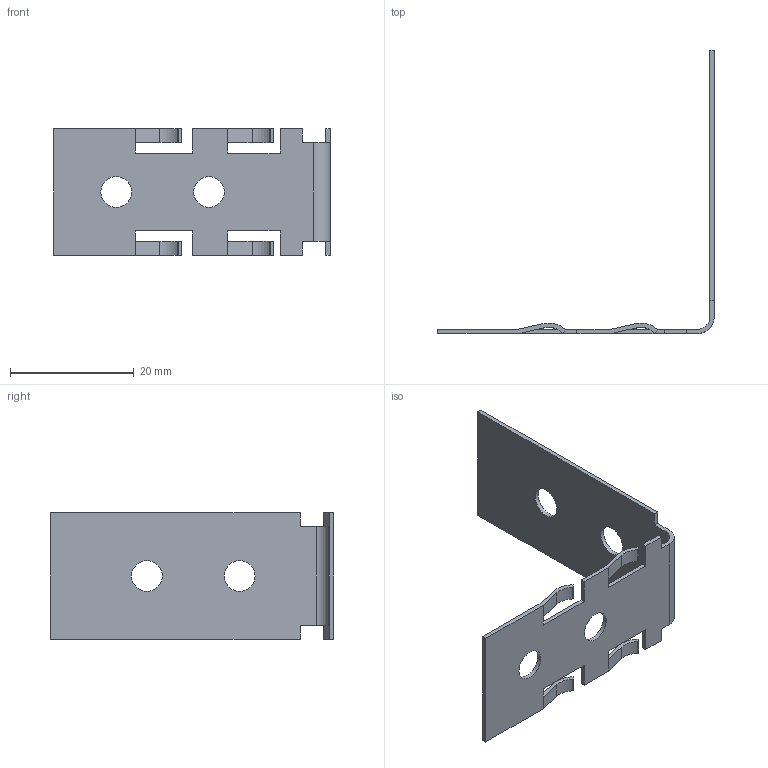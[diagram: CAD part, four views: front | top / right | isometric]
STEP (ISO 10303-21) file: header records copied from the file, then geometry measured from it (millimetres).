
FILE_DESCRIPTION( ( 'STEP AP214' ), '1' );
FILE_NAME( 'C:/Users/swati/Desktop/10-03-2016/11-03-2016/9210142/9210142.stp', ' ', ( ' ' ), ( ' ' ), 'PSStep 15.0.47', 'PARTsolutions', ' ' );
FILE_SCHEMA( ( 'AUTOMOTIVE_DESIGN { 1 0 10303 214 1 1 1 1 }' ) );
Length unit declared in the file: millimetre
Products named in the file (2): 95 ; _
Assembly tree (1 placements, depth 2):
  95 
    _
Bounding box: 44.7 x 45.8 x 20.5 mm (x, y, z)
Volume: 1144.1 mm3; surface area: 3537 mm2
Topology: 1 solids, 1 shells, 70 faces, 202 edges, 134 vertices
Faces by surface type: plane 56, cylinder 14
Full cylindrical faces by diameter (mm): 5 x4
Entity records: 2854 total; most frequent: CARTESIAN_POINT 400, ORIENTED_EDGE 392, DIRECTION 368, EDGE_CURVE 196, LINE 168, VECTOR 168, VERTEX_POINT 132, AXIS2_PLACEMENT_3D 100
